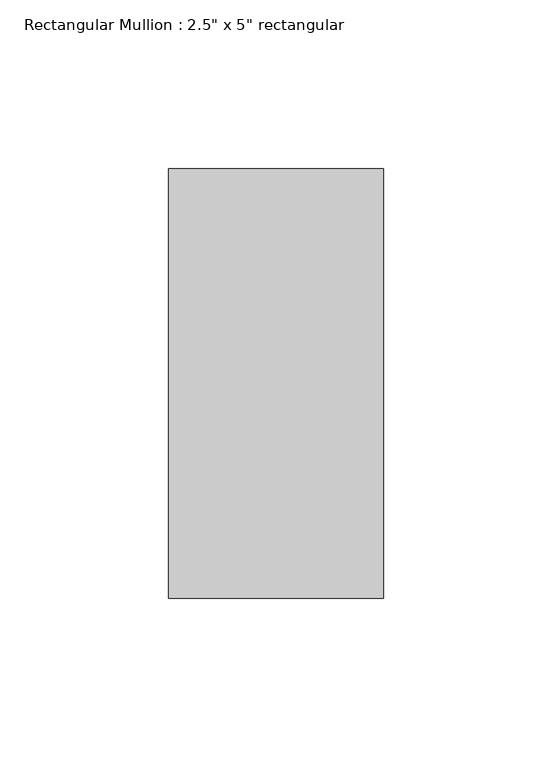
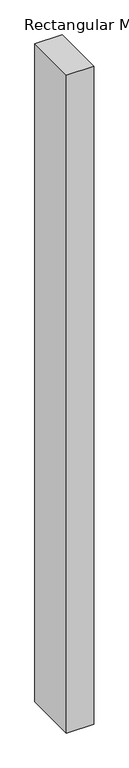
"""IFC4 building model written with IfcOpenShell, lengths in millimetres: member geometry."""

from ifc_helpers import new_model, si_unit, frame, origin, place, context, project, spatial, polyline, outline, extrude, source, transform, mapped, element, save


def member_7daf6d23(model_context):
    return source(origin(), model_context, "Body", "SweptSolid", [
        extrude(outline(polyline([(31.75, 63.5), (31.75, -63.5), (-31.75, -63.5), (-31.75, 63.5), (31.75, 63.5)])), frame((0.0, 0.0, -1615.9868509), z_axis=(0.0, 0.0, 1.0), x_axis=(1.0, 0.0, 0.0)), (0.0, 0.0, 1.0), 1615.9868509),
    ])


if __name__ == "__main__":
    model = new_model("IFC4")
    model_context = context("Model", 3, world=origin())
    ifc_project = project(units=[si_unit("LENGTHUNIT", "METRE", prefix="MILLI")], contexts=[model_context])
    site = spatial("IfcSite", under=ifc_project)
    building = spatial("IfcBuilding", under=site)
    placement = place(None, origin())
    member_shape = member_7daf6d23(model_context)
    element("IfcMember", 1, ObjectType="Rectangular Mullion : 2.5\" x 5\" rectangular", at=placement, inside=building, context=model_context, shape_type="MappedRepresentation", body=[
        mapped(member_shape, transform((0.0, 0.0, 0.0), x_axis=(1.0, 0.0, 0.0), y_axis=(0.0, 1.0, 0.0), z_axis=(0.0, 0.0, 1.0))),
    ])
    save(model, "model.ifc")
